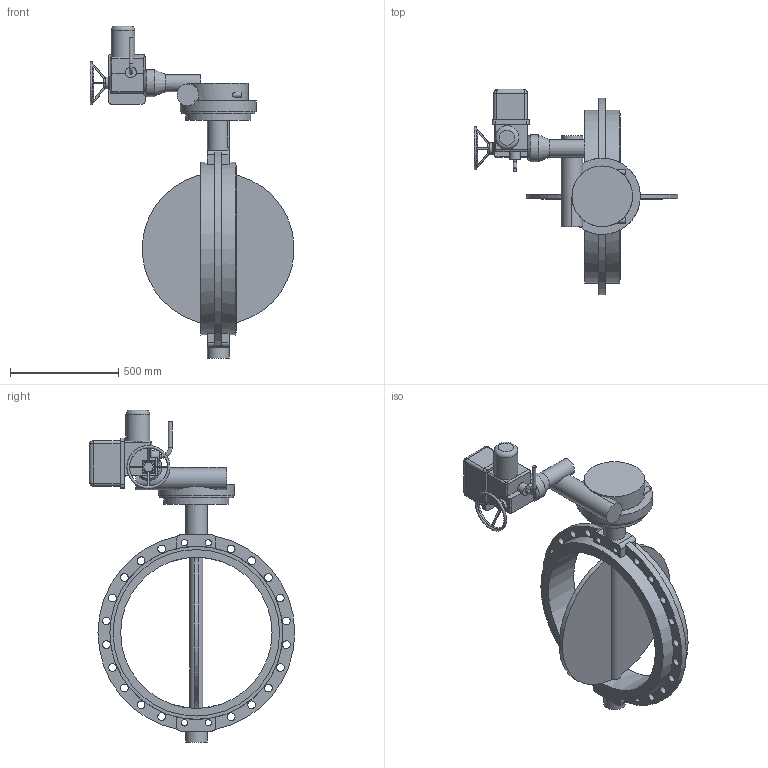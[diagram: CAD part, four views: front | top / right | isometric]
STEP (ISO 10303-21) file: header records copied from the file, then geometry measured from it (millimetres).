
FILE_DESCRIPTION(('STEP AP203'), '1');
FILE_NAME('Çàòâîð 017WDN700 ðåäóêòîð+ÝÏ ÌÒ903Ì.10', '', ('UNSPECIFIED'), ('UNSPECIFIED'), 'ASCON STEP Converter 1.6', 'ASCON Math Kernel', '');
FILE_SCHEMA(('CONFIG_CONTROL_DESIGN'));
Length unit declared in the file: millimetre
Bounding box: 942.68 x 950.5 x 1535.5 mm (x, y, z)
Volume: 63135605 mm3; surface area: 3186993.3 mm2
Topology: 1 solids, 1 shells, 799 faces, 2230 edges, 1467 vertices
Faces by surface type: cylinder 542, plane 239, bspline 10, cone 4, torus 3, sphere 1
Full cylindrical faces by diameter (mm): 14 x8, 18 x10, 25 x2, 29.211 x4, 36 x20, 50 x1, 54 x1, 80 x1, 100 x3, 110 x1, 125 x1, 280 x1, 300 x1, 340 x1, 353 x1, 700 x1, 770 x2, 800 x2
Entity records: 35505 total; most frequent: CARTESIAN_POINT 7844, DIRECTION 4772, ORIENTED_EDGE 4306, EDGE_CURVE 2153, AXIS2_PLACEMENT_3D 1896, VERTEX_POINT 1465, CIRCLE 1107, LINE 980
